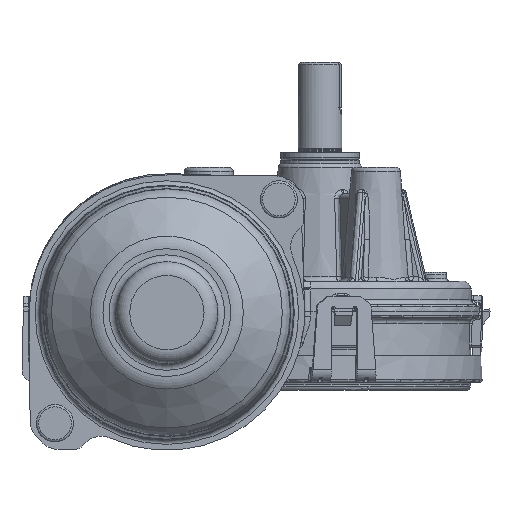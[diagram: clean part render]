
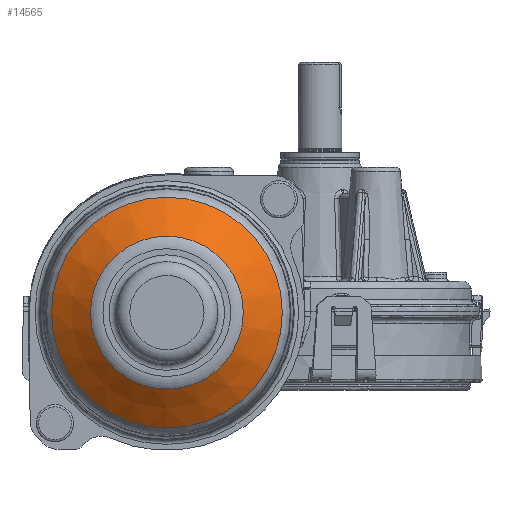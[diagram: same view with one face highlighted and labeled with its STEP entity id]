
A CAD part, left-side view. The second image highlights one B-rep face of the part: STEP entity #14565.
In plain terms, the highlighted conical face has half-angle 52 degrees and reference radius 17.478 mm.
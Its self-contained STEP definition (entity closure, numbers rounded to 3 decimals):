
#1916=CONICAL_SURFACE('',#53590,17.478,52.);
#10395=FACE_BOUND('',#20512,.T.);
#10396=FACE_BOUND('',#20513,.T.);
#12031=CIRCLE('',#53587,17.478);
#12032=CIRCLE('',#53589,26.4);
#14565=ADVANCED_FACE('',(#10395,#10396),#1916,.T.);
#20512=EDGE_LOOP('',(#32804));
#20513=EDGE_LOOP('',(#32805));
#32804=ORIENTED_EDGE('',*,*,#43768,.F.);
#32805=ORIENTED_EDGE('',*,*,#43767,.T.);
#37122=VERTEX_POINT('',#109353);
#37123=VERTEX_POINT('',#109356);
#43767=EDGE_CURVE('',#37122,#37122,#12031,.T.);
#43768=EDGE_CURVE('',#37123,#37123,#12032,.T.);
#53587=AXIS2_PLACEMENT_3D('',#109352,#63928,#63929);
#53589=AXIS2_PLACEMENT_3D('',#109355,#63932,#63933);
#53590=AXIS2_PLACEMENT_3D('',#109357,#63934,#63935);
#63928=DIRECTION('',(1.,0.,0.));
#63929=DIRECTION('',(0.,0.,1.));
#63932=DIRECTION('',(1.,0.,0.));
#63933=DIRECTION('',(0.,0.,1.));
#63934=DIRECTION('',(1.,0.,0.));
#63935=DIRECTION('',(0.,-0.878,-0.479));
#109352=CARTESIAN_POINT('',(-124.414,0.,-0.3));
#109353=CARTESIAN_POINT('',(-124.414,0.,17.178));
#109355=CARTESIAN_POINT('',(-117.444,0.,-0.3));
#109356=CARTESIAN_POINT('',(-117.444,0.,26.1));
#109357=CARTESIAN_POINT('',(-124.414,0.,-0.3));
